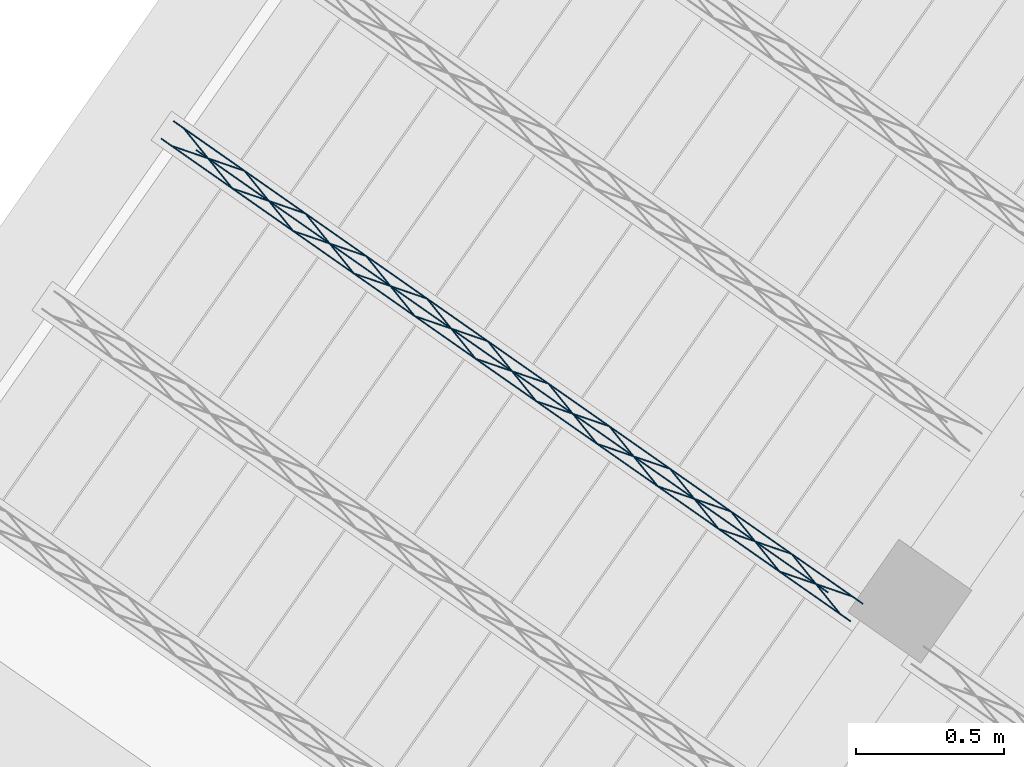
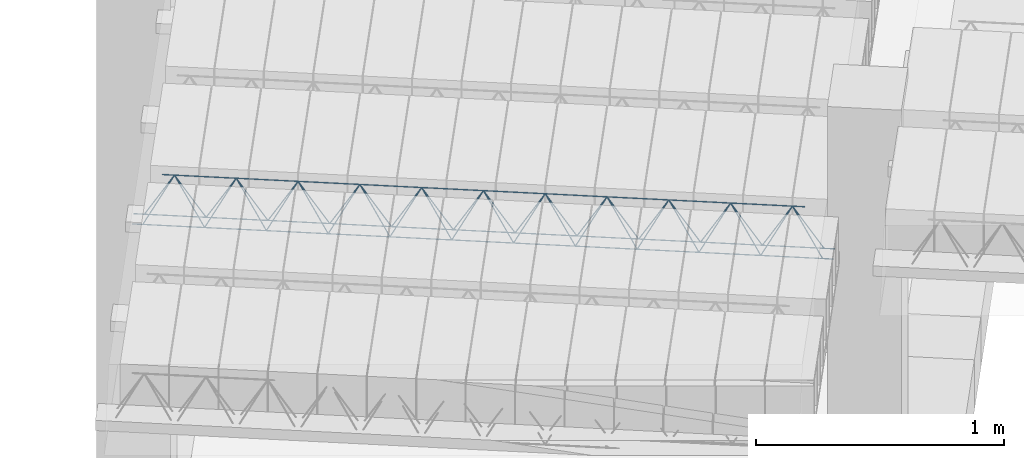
# One storey, part 12 of 80: 1 member.
"""IFC2X3 building model written with IfcOpenShell, lengths in metres."""

from ifc_helpers import new_model, entity, si_unit, converted_unit, derived_unit, direction, frame, origin, origin_2d_with_axis, place, context, subcontext, project, spatial, circle, extrude, type_object, element, save


model = new_model("IFC2X3")

# Units and contexts
model_context = context("Model", 3, precision=1e-05, world=origin(), true_north=direction((6.123031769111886e-17, 1.0)))
body_context = subcontext(model_context, "Body", "Model", "MODEL_VIEW")
ifc_project = project(units=[si_unit("LENGTHUNIT", "METRE"), si_unit("AREAUNIT", "SQUARE_METRE"), si_unit("VOLUMEUNIT", "CUBIC_METRE"), converted_unit("PLANEANGLEUNIT", "DEGREE", entity("IfcPlaneAngleMeasure", 0.017453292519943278), si_unit("PLANEANGLEUNIT", "RADIAN"), dimensions=[0, 0, 0, 0, 0, 0, 0]), si_unit("MASSUNIT", "GRAM", prefix="KILO"), derived_unit("MASSDENSITYUNIT", [(si_unit("MASSUNIT", "GRAM", prefix="KILO"), 1), (si_unit("LENGTHUNIT", "METRE"), -3)]), derived_unit("IONCONCENTRATIONUNIT", [(si_unit("MASSUNIT", "GRAM", prefix="KILO"), 1), (si_unit("LENGTHUNIT", "METRE"), -3)]), derived_unit("MOMENTOFINERTIAUNIT", [(si_unit("LENGTHUNIT", "METRE"), 4)]), si_unit("TIMEUNIT", "SECOND"), si_unit("FREQUENCYUNIT", "HERTZ"), si_unit("THERMODYNAMICTEMPERATUREUNIT", "DEGREE_CELSIUS"), derived_unit("THERMALTRANSMITTANCEUNIT", [(si_unit("MASSUNIT", "GRAM", prefix="KILO"), 1), (si_unit("THERMODYNAMICTEMPERATUREUNIT", "KELVIN"), -1), (si_unit("TIMEUNIT", "SECOND"), -3)]), derived_unit("THERMALCONDUCTANCEUNIT", [(si_unit("MASSUNIT", "GRAM", prefix="KILO"), 1), (si_unit("THERMODYNAMICTEMPERATUREUNIT", "KELVIN"), -1), (si_unit("TIMEUNIT", "SECOND"), -3), (si_unit("LENGTHUNIT", "METRE"), 1)]), derived_unit("VOLUMETRICFLOWRATEUNIT", [(si_unit("LENGTHUNIT", "METRE", prefix="DECI"), 3), (si_unit("TIMEUNIT", "SECOND"), -1)]), derived_unit("MASSFLOWRATEUNIT", [(si_unit("MASSUNIT", "GRAM", prefix="KILO"), 1), (si_unit("TIMEUNIT", "SECOND"), -1)]), derived_unit("ROTATIONALFREQUENCYUNIT", [(si_unit("TIMEUNIT", "SECOND"), -1)]), si_unit("ELECTRICCURRENTUNIT", "AMPERE"), si_unit("ELECTRICVOLTAGEUNIT", "VOLT"), si_unit("POWERUNIT", "WATT"), si_unit("FORCEUNIT", "NEWTON", prefix="KILO"), si_unit("ILLUMINANCEUNIT", "LUX"), si_unit("LUMINOUSFLUXUNIT", "LUMEN"), si_unit("LUMINOUSINTENSITYUNIT", "CANDELA"), si_unit("ENERGYUNIT", "JOULE"), derived_unit("USERDEFINED", [(si_unit("MASSUNIT", "GRAM", prefix="KILO"), -1), (si_unit("LENGTHUNIT", "METRE"), -2), (si_unit("TIMEUNIT", "SECOND"), 3), (si_unit("LUMINOUSFLUXUNIT", "LUMEN"), 1)]), derived_unit("USERDEFINED", [(si_unit("MASSUNIT", "GRAM", prefix="KILO"), 1), (si_unit("TIMEUNIT", "SECOND"), -3), (si_unit("LENGTHUNIT", "METRE"), 3), (si_unit("ELECTRICCURRENTUNIT", "AMPERE"), -2)]), derived_unit("SOUNDPOWERUNIT", [(si_unit("MASSUNIT", "GRAM", prefix="KILO"), 1), (si_unit("TIMEUNIT", "SECOND"), -3), (si_unit("LENGTHUNIT", "METRE"), 2)]), derived_unit("SOUNDPRESSUREUNIT", [(si_unit("MASSUNIT", "GRAM", prefix="KILO"), 1), (si_unit("LENGTHUNIT", "METRE"), -1), (si_unit("TIMEUNIT", "SECOND"), -2)]), derived_unit("LINEARVELOCITYUNIT", [(si_unit("LENGTHUNIT", "METRE"), 1), (si_unit("TIMEUNIT", "SECOND"), -1)]), si_unit("PRESSUREUNIT", "PASCAL"), derived_unit("USERDEFINED", [(si_unit("MASSUNIT", "GRAM", prefix="KILO"), 1), (si_unit("LENGTHUNIT", "METRE"), -2), (si_unit("TIMEUNIT", "SECOND"), -2)]), derived_unit("LINEARFORCEUNIT", [(si_unit("MASSUNIT", "GRAM", prefix="KILO"), 1), (si_unit("TIMEUNIT", "SECOND"), -2)]), derived_unit("PLANARFORCEUNIT", [(si_unit("MASSUNIT", "GRAM", prefix="KILO"), 1), (si_unit("LENGTHUNIT", "METRE"), -1), (si_unit("TIMEUNIT", "SECOND"), -2)]), derived_unit("SPECIFICHEATCAPACITYUNIT", [(si_unit("THERMODYNAMICTEMPERATUREUNIT", "KELVIN"), -1), (si_unit("LENGTHUNIT", "METRE"), 2), (si_unit("TIMEUNIT", "SECOND"), -2)]), derived_unit("HEATFLUXDENSITYUNIT", [(si_unit("MASSUNIT", "GRAM", prefix="KILO"), 1), (si_unit("TIMEUNIT", "SECOND"), -3)]), derived_unit("HEATINGVALUEUNIT", [(si_unit("LENGTHUNIT", "METRE"), 2), (si_unit("TIMEUNIT", "SECOND"), -2)]), derived_unit("VAPORPERMEABILITYUNIT", [(si_unit("LENGTHUNIT", "METRE"), -1), (si_unit("TIMEUNIT", "SECOND"), 1)]), derived_unit("DYNAMICVISCOSITYUNIT", [(si_unit("MASSUNIT", "GRAM", prefix="KILO"), 1), (si_unit("TIMEUNIT", "SECOND"), -1), (si_unit("LENGTHUNIT", "METRE"), -1)]), derived_unit("THERMALEXPANSIONCOEFFICIENTUNIT", [(si_unit("THERMODYNAMICTEMPERATUREUNIT", "KELVIN"), -1)]), derived_unit("MODULUSOFELASTICITYUNIT", [(si_unit("MASSUNIT", "GRAM", prefix="KILO"), 1), (si_unit("LENGTHUNIT", "METRE"), -1), (si_unit("TIMEUNIT", "SECOND"), -2)]), derived_unit("ISOTHERMALMOISTURECAPACITYUNIT", [(si_unit("MASSUNIT", "GRAM", prefix="KILO"), -1), (si_unit("LENGTHUNIT", "METRE"), 3)]), derived_unit("MOISTUREDIFFUSIVITYUNIT", [(si_unit("TIMEUNIT", "SECOND"), -1), (si_unit("LENGTHUNIT", "METRE"), 2)]), derived_unit("MASSPERLENGTHUNIT", [(si_unit("MASSUNIT", "GRAM", prefix="KILO"), 1), (si_unit("LENGTHUNIT", "METRE"), -1)]), derived_unit("THERMALRESISTANCEUNIT", [(si_unit("MASSUNIT", "GRAM", prefix="KILO"), -1), (si_unit("TIMEUNIT", "SECOND"), 3), (si_unit("THERMODYNAMICTEMPERATUREUNIT", "KELVIN"), 1)]), derived_unit("ACCELERATIONUNIT", [(si_unit("LENGTHUNIT", "METRE"), 1), (si_unit("TIMEUNIT", "SECOND"), -2)]), derived_unit("ANGULARVELOCITYUNIT", [(si_unit("TIMEUNIT", "SECOND"), -1), (si_unit("PLANEANGLEUNIT", "RADIAN"), 1)]), derived_unit("LINEARSTIFFNESSUNIT", [(si_unit("MASSUNIT", "GRAM", prefix="KILO"), 1), (si_unit("TIMEUNIT", "SECOND"), -2)]), derived_unit("WARPINGCONSTANTUNIT", [(si_unit("LENGTHUNIT", "METRE"), 6)]), derived_unit("LINEARMOMENTUNIT", [(si_unit("MASSUNIT", "GRAM", prefix="KILO"), 1), (si_unit("LENGTHUNIT", "METRE"), 1), (si_unit("TIMEUNIT", "SECOND"), -2)]), derived_unit("TORQUEUNIT", [(si_unit("MASSUNIT", "GRAM", prefix="KILO"), 1), (si_unit("LENGTHUNIT", "METRE"), 2), (si_unit("TIMEUNIT", "SECOND"), -2)])], contexts=[model_context])

# Site, building, storey
site_placement = place(None, origin())
site = spatial("IfcSite", under=ifc_project, at=site_placement, Name="Default", CompositionType="ELEMENT")
building_placement = place(site_placement, origin())
building = spatial("IfcBuilding", under=site, at=building_placement, CompositionType="ELEMENT")
storey_placement = place(building_placement, frame((0.0, 0.0, 95.94)))
storey = spatial("IfcBuildingStorey", under=building, at=storey_placement, Name="PB", CompositionType="ELEMENT", Elevation=95.94)

# Member
member_type = type_object("IfcMemberType", Name="Celosía (Vigueta 3 - Paño 2)", PredefinedType="NOTDEFINED")
member_placement = place(storey_placement, origin())
element("IfcMember", 1, at=member_placement, inside=storey, type_object=member_type, Name="Celosía (Vigueta 3 - Paño 2)", context=body_context, shape_type="SweptSolid", body=[
    extrude(circle(Radius=0.0025, at=origin_2d_with_axis()), frame((-0.37818722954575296, 3.822491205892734, 2.8449999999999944), z_axis=(0.8191520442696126, -0.5735764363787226, 0.0), x_axis=(-0.5735764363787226, -0.8191520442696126, 0.0)), (0.0, 0.0, 1.0), 2.836708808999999),
    extrude(circle(Radius=0.0025, at=origin_2d_with_axis()), frame((-0.2605882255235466, 3.7840953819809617, 3.069999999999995), z_axis=(0.8191520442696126, -0.5735764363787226, 0.0), x_axis=(-0.5735764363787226, -0.8191520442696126, 0.0)), (0.0, 0.0, 1.0), 2.5999999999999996),
    extrude(circle(Radius=0.0025, at=origin_2d_with_axis()), frame((1.9099947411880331, 2.220288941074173, 2.8449999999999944), z_axis=(-0.3145304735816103, 0.389334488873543, 0.8657304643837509), x_axis=(-0.7778747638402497, -0.6284193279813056, 0.0)), (0.0, 0.0, 1.0), 0.2598961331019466),
    extrude(circle(Radius=0.0025, at=origin_2d_with_axis()), frame((1.705206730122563, 2.3636830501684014, 2.8449999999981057), z_axis=(0.47343050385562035, -0.1624017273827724, 0.8657304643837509), x_axis=(-0.3244721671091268, -0.9458952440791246, 0.0)), (0.0, 0.0, 1.0), 0.25989613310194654),
    extrude(circle(Radius=0.0025, at=origin_2d_with_axis()), frame((1.70520673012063, 2.3636830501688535, 2.8449999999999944), z_axis=(-0.3145304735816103, 0.389334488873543, 0.8657304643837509), x_axis=(-0.7778747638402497, -0.6284193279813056, 0.0)), (0.0, 0.0, 1.0), 0.2598961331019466),
    extrude(circle(Radius=0.0025, at=origin_2d_with_axis()), frame((1.50041871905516, 2.507077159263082, 2.8449999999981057), z_axis=(0.47343050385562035, -0.1624017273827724, 0.8657304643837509), x_axis=(-0.3244721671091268, -0.9458952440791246, 0.0)), (0.0, 0.0, 1.0), 0.25989613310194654),
    extrude(circle(Radius=0.0025, at=origin_2d_with_axis()), frame((1.5004187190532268, 2.507077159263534, 2.8449999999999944), z_axis=(-0.3145304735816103, 0.389334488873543, 0.8657304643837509), x_axis=(-0.7778747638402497, -0.6284193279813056, 0.0)), (0.0, 0.0, 1.0), 0.2598961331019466),
    extrude(circle(Radius=0.0025, at=origin_2d_with_axis()), frame((1.295630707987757, 2.650471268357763, 2.8449999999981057), z_axis=(0.47343050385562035, -0.1624017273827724, 0.8657304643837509), x_axis=(-0.3244721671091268, -0.9458952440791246, 0.0)), (0.0, 0.0, 1.0), 0.25989613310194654),
    extrude(circle(Radius=0.0025, at=origin_2d_with_axis()), frame((1.2956307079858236, 2.650471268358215, 2.8449999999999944), z_axis=(-0.3145304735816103, 0.389334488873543, 0.8657304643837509), x_axis=(-0.7778747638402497, -0.6284193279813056, 0.0)), (0.0, 0.0, 1.0), 0.2598961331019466),
    extrude(circle(Radius=0.0025, at=origin_2d_with_axis()), frame((1.0908426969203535, 2.793865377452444, 2.8449999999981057), z_axis=(0.47343050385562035, -0.1624017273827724, 0.8657304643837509), x_axis=(-0.3244721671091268, -0.9458952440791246, 0.0)), (0.0, 0.0, 1.0), 0.25989613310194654),
    extrude(circle(Radius=0.0025, at=origin_2d_with_axis()), frame((1.0908426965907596, 2.7938653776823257, 2.8449999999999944), z_axis=(-0.3145304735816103, 0.389334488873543, 0.8657304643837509), x_axis=(-0.7778747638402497, -0.6284193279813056, 0.0)), (0.0, 0.0, 1.0), 0.2598961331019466),
    extrude(circle(Radius=0.0025, at=origin_2d_with_axis()), frame((0.8860546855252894, 2.937259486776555, 2.8449999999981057), z_axis=(0.47343050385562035, -0.1624017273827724, 0.8657304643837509), x_axis=(-0.3244721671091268, -0.9458952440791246, 0.0)), (0.0, 0.0, 1.0), 0.25989613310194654),
    extrude(circle(Radius=0.0025, at=origin_2d_with_axis()), frame((0.8860546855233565, 2.9372594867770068, 2.8449999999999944), z_axis=(-0.3145304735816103, 0.389334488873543, 0.8657304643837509), x_axis=(-0.7778747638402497, -0.6284193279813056, 0.0)), (0.0, 0.0, 1.0), 0.2598961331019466),
    extrude(circle(Radius=0.0025, at=origin_2d_with_axis()), frame((0.6812666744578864, 3.0806535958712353, 2.8449999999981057), z_axis=(0.47343050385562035, -0.1624017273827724, 0.8657304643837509), x_axis=(-0.3244721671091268, -0.9458952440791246, 0.0)), (0.0, 0.0, 1.0), 0.25989613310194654),
    extrude(circle(Radius=0.0025, at=origin_2d_with_axis()), frame((0.6812666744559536, 3.0806535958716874, 2.8449999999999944), z_axis=(-0.3145304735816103, 0.389334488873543, 0.8657304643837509), x_axis=(-0.7778747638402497, -0.6284193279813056, 0.0)), (0.0, 0.0, 1.0), 0.2598961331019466),
    extrude(circle(Radius=0.0025, at=origin_2d_with_axis()), frame((0.47647866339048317, 3.2240477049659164, 2.8449999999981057), z_axis=(0.47343050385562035, -0.1624017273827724, 0.8657304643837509), x_axis=(-0.3244721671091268, -0.9458952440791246, 0.0)), (0.0, 0.0, 1.0), 0.25989613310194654),
    extrude(circle(Radius=0.0025, at=origin_2d_with_axis()), frame((0.4764786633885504, 3.2240477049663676, 2.8449999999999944), z_axis=(-0.3145304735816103, 0.389334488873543, 0.8657304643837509), x_axis=(-0.7778747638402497, -0.6284193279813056, 0.0)), (0.0, 0.0, 1.0), 0.2598961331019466),
    extrude(circle(Radius=0.0025, at=origin_2d_with_axis()), frame((0.27169065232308, 3.3674418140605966, 2.8449999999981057), z_axis=(0.47343050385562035, -0.1624017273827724, 0.8657304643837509), x_axis=(-0.3244721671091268, -0.9458952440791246, 0.0)), (0.0, 0.0, 1.0), 0.25989613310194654),
    extrude(circle(Radius=0.0025, at=origin_2d_with_axis()), frame((0.271690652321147, 3.3674418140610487, 2.8449999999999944), z_axis=(-0.3145304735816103, 0.389334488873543, 0.8657304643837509), x_axis=(-0.7778747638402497, -0.6284193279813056, 0.0)), (0.0, 0.0, 1.0), 0.2598961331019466),
    extrude(circle(Radius=0.0025, at=origin_2d_with_axis()), frame((0.06690264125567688, 3.5108359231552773, 2.8449999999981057), z_axis=(0.47343050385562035, -0.1624017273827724, 0.8657304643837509), x_axis=(-0.3244721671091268, -0.9458952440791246, 0.0)), (0.0, 0.0, 1.0), 0.25989613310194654),
    extrude(circle(Radius=0.0025, at=origin_2d_with_axis()), frame((0.06690264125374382, 3.5108359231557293, 2.8449999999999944), z_axis=(-0.3145304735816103, 0.389334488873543, 0.8657304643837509), x_axis=(-0.7778747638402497, -0.6284193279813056, 0.0)), (0.0, 0.0, 1.0), 0.2598961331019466),
    extrude(circle(Radius=0.0025, at=origin_2d_with_axis()), frame((-0.13788536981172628, 3.6542300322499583, 2.8449999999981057), z_axis=(0.47343050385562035, -0.1624017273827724, 0.8657304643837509), x_axis=(-0.3244721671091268, -0.9458952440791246, 0.0)), (0.0, 0.0, 1.0), 0.25989613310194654),
    extrude(circle(Radius=0.0025, at=origin_2d_with_axis()), frame((-0.13788536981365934, 3.65423003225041, 2.8449999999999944), z_axis=(-0.3145304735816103, 0.389334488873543, 0.8657304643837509), x_axis=(-0.7778747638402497, -0.6284193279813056, 0.0)), (0.0, 0.0, 1.0), 0.2598961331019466),
    extrude(circle(Radius=0.0025, at=origin_2d_with_axis()), frame((-0.3426733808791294, 3.7976241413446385, 2.8449999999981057), z_axis=(0.47343050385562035, -0.1624017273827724, 0.8657304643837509), x_axis=(-0.3244721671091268, -0.9458952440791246, 0.0)), (0.0, 0.0, 1.0), 0.25989613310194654),
    extrude(circle(Radius=0.0025, at=origin_2d_with_axis()), frame((-0.33688972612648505, 3.8814701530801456, 2.8449999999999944), z_axis=(0.8191520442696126, -0.5735764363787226, 0.0), x_axis=(-0.5735764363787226, -0.8191520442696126, 0.0)), (0.0, 0.0, 1.0), 2.836708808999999),
    extrude(circle(Radius=0.0025, at=origin_2d_with_axis()), frame((1.951292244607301, 2.279267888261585, 2.8449999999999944), z_axis=(-0.47343050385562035, 0.1624017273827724, 0.8657304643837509), x_axis=(-0.3244721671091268, -0.9458952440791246, 0.0)), (0.0, 0.0, 1.0), 0.25989613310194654),
    extrude(circle(Radius=0.0025, at=origin_2d_with_axis()), frame((1.7465042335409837, 2.4226619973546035, 2.8449999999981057), z_axis=(0.3145304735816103, -0.389334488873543, 0.8657304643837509), x_axis=(-0.7778747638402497, -0.6284193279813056, 0.0)), (0.0, 0.0, 1.0), 0.2598961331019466),
    extrude(circle(Radius=0.0025, at=origin_2d_with_axis()), frame((1.746504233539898, 2.4226619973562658, 2.8449999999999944), z_axis=(-0.47343050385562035, 0.1624017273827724, 0.8657304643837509), x_axis=(-0.3244721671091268, -0.9458952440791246, 0.0)), (0.0, 0.0, 1.0), 0.25989613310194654),
    extrude(circle(Radius=0.0025, at=origin_2d_with_axis()), frame((1.5417162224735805, 2.566056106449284, 2.8449999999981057), z_axis=(0.3145304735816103, -0.389334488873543, 0.8657304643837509), x_axis=(-0.7778747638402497, -0.6284193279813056, 0.0)), (0.0, 0.0, 1.0), 0.2598961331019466),
    extrude(circle(Radius=0.0025, at=origin_2d_with_axis()), frame((1.5417162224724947, 2.5660561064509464, 2.8449999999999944), z_axis=(-0.47343050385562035, 0.1624017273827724, 0.8657304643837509), x_axis=(-0.3244721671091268, -0.9458952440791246, 0.0)), (0.0, 0.0, 1.0), 0.25989613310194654),
    extrude(circle(Radius=0.0025, at=origin_2d_with_axis()), frame((1.3369282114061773, 2.709450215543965, 2.8449999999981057), z_axis=(0.3145304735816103, -0.389334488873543, 0.8657304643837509), x_axis=(-0.7778747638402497, -0.6284193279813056, 0.0)), (0.0, 0.0, 1.0), 0.2598961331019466),
    extrude(circle(Radius=0.0025, at=origin_2d_with_axis()), frame((1.3369282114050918, 2.709450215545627, 2.8449999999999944), z_axis=(-0.47343050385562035, 0.1624017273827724, 0.8657304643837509), x_axis=(-0.3244721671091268, -0.9458952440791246, 0.0)), (0.0, 0.0, 1.0), 0.25989613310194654),
    extrude(circle(Radius=0.0025, at=origin_2d_with_axis()), frame((1.1321402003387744, 2.852844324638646, 2.8449999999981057), z_axis=(0.3145304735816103, -0.389334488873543, 0.8657304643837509), x_axis=(-0.7778747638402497, -0.6284193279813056, 0.0)), (0.0, 0.0, 1.0), 0.2598961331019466),
    extrude(circle(Radius=0.0025, at=origin_2d_with_axis()), frame((1.1321402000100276, 2.8528443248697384, 2.8449999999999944), z_axis=(-0.47343050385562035, 0.1624017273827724, 0.8657304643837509), x_axis=(-0.3244721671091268, -0.9458952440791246, 0.0)), (0.0, 0.0, 1.0), 0.25989613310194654),
    extrude(circle(Radius=0.0025, at=origin_2d_with_axis()), frame((0.9273521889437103, 2.996238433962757, 2.8449999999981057), z_axis=(0.3145304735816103, -0.389334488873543, 0.8657304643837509), x_axis=(-0.7778747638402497, -0.6284193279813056, 0.0)), (0.0, 0.0, 1.0), 0.2598961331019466),
    extrude(circle(Radius=0.0025, at=origin_2d_with_axis()), frame((0.9273521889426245, 2.996238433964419, 2.8449999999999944), z_axis=(-0.47343050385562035, 0.1624017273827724, 0.8657304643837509), x_axis=(-0.3244721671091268, -0.9458952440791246, 0.0)), (0.0, 0.0, 1.0), 0.25989613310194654),
    extrude(circle(Radius=0.0025, at=origin_2d_with_axis()), frame((0.7225641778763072, 3.139632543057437, 2.8449999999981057), z_axis=(0.3145304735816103, -0.389334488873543, 0.8657304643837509), x_axis=(-0.7778747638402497, -0.6284193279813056, 0.0)), (0.0, 0.0, 1.0), 0.2598961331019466),
    extrude(circle(Radius=0.0025, at=origin_2d_with_axis()), frame((0.7225641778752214, 3.1396325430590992, 2.8449999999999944), z_axis=(-0.47343050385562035, 0.1624017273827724, 0.8657304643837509), x_axis=(-0.3244721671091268, -0.9458952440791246, 0.0)), (0.0, 0.0, 1.0), 0.25989613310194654),
    extrude(circle(Radius=0.0025, at=origin_2d_with_axis()), frame((0.517776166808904, 3.283026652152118, 2.8449999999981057), z_axis=(0.3145304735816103, -0.389334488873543, 0.8657304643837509), x_axis=(-0.7778747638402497, -0.6284193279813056, 0.0)), (0.0, 0.0, 1.0), 0.2598961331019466),
    extrude(circle(Radius=0.0025, at=origin_2d_with_axis()), frame((0.5177761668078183, 3.2830266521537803, 2.8449999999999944), z_axis=(-0.47343050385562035, 0.1624017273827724, 0.8657304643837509), x_axis=(-0.3244721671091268, -0.9458952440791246, 0.0)), (0.0, 0.0, 1.0), 0.25989613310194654),
    extrude(circle(Radius=0.0025, at=origin_2d_with_axis()), frame((0.31298815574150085, 3.4264207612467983, 2.8449999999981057), z_axis=(0.3145304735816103, -0.389334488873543, 0.8657304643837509), x_axis=(-0.7778747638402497, -0.6284193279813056, 0.0)), (0.0, 0.0, 1.0), 0.2598961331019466),
    extrude(circle(Radius=0.0025, at=origin_2d_with_axis()), frame((0.3129881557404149, 3.426420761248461, 2.8449999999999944), z_axis=(-0.47343050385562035, 0.1624017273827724, 0.8657304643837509), x_axis=(-0.3244721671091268, -0.9458952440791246, 0.0)), (0.0, 0.0, 1.0), 0.25989613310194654),
    extrude(circle(Radius=0.0025, at=origin_2d_with_axis()), frame((0.10820014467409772, 3.5698148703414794, 2.8449999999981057), z_axis=(0.3145304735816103, -0.389334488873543, 0.8657304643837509), x_axis=(-0.7778747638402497, -0.6284193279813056, 0.0)), (0.0, 0.0, 1.0), 0.2598961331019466),
    extrude(circle(Radius=0.0025, at=origin_2d_with_axis()), frame((0.10820014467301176, 3.5698148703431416, 2.8449999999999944), z_axis=(-0.47343050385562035, 0.1624017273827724, 0.8657304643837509), x_axis=(-0.3244721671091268, -0.9458952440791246, 0.0)), (0.0, 0.0, 1.0), 0.25989613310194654),
    extrude(circle(Radius=0.0025, at=origin_2d_with_axis()), frame((-0.09658786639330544, 3.71320897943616, 2.8449999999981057), z_axis=(0.3145304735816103, -0.389334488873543, 0.8657304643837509), x_axis=(-0.7778747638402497, -0.6284193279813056, 0.0)), (0.0, 0.0, 1.0), 0.2598961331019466),
    extrude(circle(Radius=0.0025, at=origin_2d_with_axis()), frame((-0.09658786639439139, 3.713208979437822, 2.8449999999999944), z_axis=(-0.47343050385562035, 0.1624017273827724, 0.8657304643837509), x_axis=(-0.3244721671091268, -0.9458952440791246, 0.0)), (0.0, 0.0, 1.0), 0.25989613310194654),
    extrude(circle(Radius=0.0025, at=origin_2d_with_axis()), frame((-0.30137587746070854, 3.85660308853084, 2.8449999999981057), z_axis=(0.3145304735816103, -0.389334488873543, 0.8657304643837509), x_axis=(-0.7778747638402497, -0.6284193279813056, 0.0)), (0.0, 0.0, 1.0), 0.2598961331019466),
])

save(model, "model.ifc")
